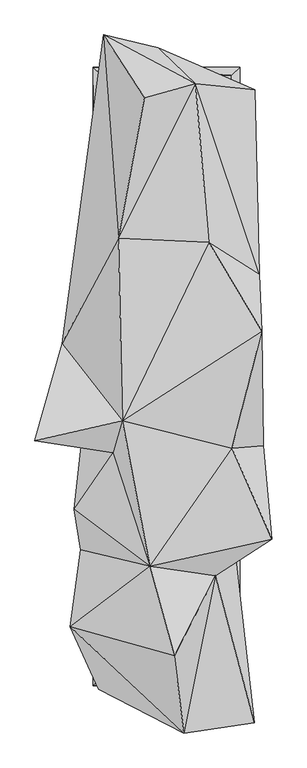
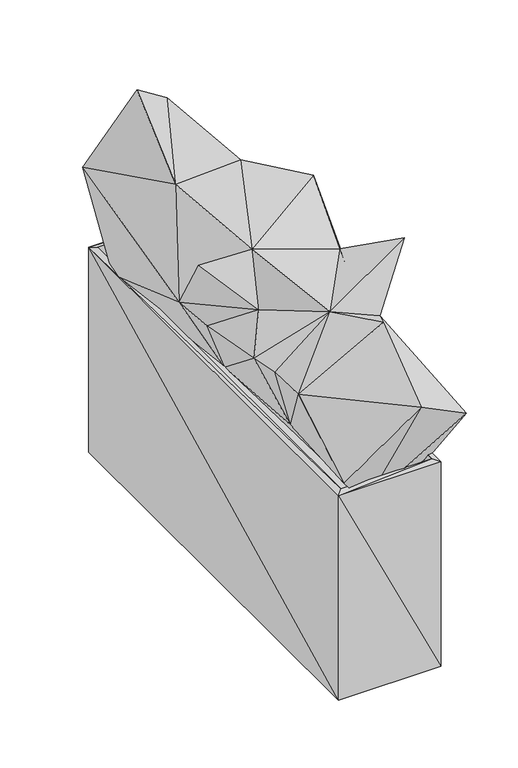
"""IFC4 building model written with IfcOpenShell, lengths in millimetres: geographic element geometry, Enscape AssetDefinition - Snake Plant : Enscape AssetDefinition - Snake Plant."""

import ifcopenshell
import ifcopenshell.guid

model = None  # the IFC model being written
_history = None  # IfcOwnerHistory: only IFC2X3 demands one
_inside = {}  # id of a spatial element -> (the spatial element, [elements in it])
_under = {}  # id of a project, library or spatial element -> (it, [spatial elements below it])
_declared = {}  # id of a project -> (the project, [libraries it declares])
_typed = {}  # id of a type object -> (the type object, [elements of that type])
_made_of = {}  # id of a material, layer set ... -> (it, [elements and type objects made of it])


def new_model(schema):
    """Start an empty IFC model of exactly this schema.

    Asked for "IFC4X3", IfcOpenShell would pick the latest addendum, in which some entities
    have other attributes; the version numbers below select the first issue.
    IFC2X3 requires an IfcOwnerHistory on every rooted entity: one is made here for all.
    """
    global model, _history
    if schema == "IFC4X3":
        model = ifcopenshell.file(schema_version=(4, 3, 0, 0))
    else:
        model = ifcopenshell.file(schema=schema)
    _inside.clear()
    _under.clear()
    _declared.clear()
    _typed.clear()
    _made_of.clear()
    _history = None
    if model.schema == "IFC2X3":
        org = make("IfcOrganization", Name="unknown")
        user = make(
            "IfcPersonAndOrganization",
            ThePerson=make("IfcPerson", FamilyName="unknown"),
            TheOrganization=org,
        )
        app = make(
            "IfcApplication",
            ApplicationDeveloper=org,
            Version="unknown",
            ApplicationFullName="unknown",
            ApplicationIdentifier="unknown",
        )
        _history = make(
            "IfcOwnerHistory",
            OwningUser=user,
            OwningApplication=app,
            ChangeAction="ADDED",
            CreationDate=0,
        )
    return model


def make(cls, **values):
    """One entity of the class cls with the attributes given. An attribute that is None is left unset."""
    return model.create_entity(
        cls, **{name: value for name, value in values.items() if value is not None}
    )


def rooted(cls, **values):
    """An entity with a GlobalId (a new one), such as an element, a storey or a relation."""
    return make(cls, GlobalId=ifcopenshell.guid.new(), OwnerHistory=_history, **values)


def si_unit(unit_type, name, prefix=None):
    """IfcSIUnit, for example si_unit("LENGTHUNIT", "METRE", prefix="MILLI")."""
    return make("IfcSIUnit", UnitType=unit_type, Prefix=prefix, Name=name)


def assignment(units):
    """IfcUnitAssignment: the units of a project."""
    return None if units is None else make("IfcUnitAssignment", Units=units)


def point(xyz):
    """IfcCartesianPoint."""
    return None if xyz is None else make("IfcCartesianPoint", Coordinates=xyz)


def direction(xyz):
    """IfcDirection."""
    return None if xyz is None else make("IfcDirection", DirectionRatios=xyz)


def frame(location, z_axis=None, x_axis=None):
    """IfcAxis2Placement3D, a coordinate frame: its origin and axes. An axis left out is left unset."""
    return make(
        "IfcAxis2Placement3D",
        Location=point(location),
        Axis=direction(z_axis),
        RefDirection=direction(x_axis),
    )


def origin():
    """The frame at (0, 0, 0) with its axes left unset."""
    return frame((0.0, 0.0, 0.0))


def place(relative_to, where):
    """IfcLocalPlacement: puts the frame where relative to a parent placement (None: the world)."""
    return make(
        "IfcLocalPlacement", PlacementRelTo=relative_to, RelativePlacement=where
    )


def context(
    kind, dimensions, precision=None, world=None, true_north=None, identifier=None
):
    """IfcGeometricRepresentationContext, for example the 3D "Model" context."""
    return make(
        "IfcGeometricRepresentationContext",
        ContextIdentifier=identifier,
        ContextType=kind,
        CoordinateSpaceDimension=dimensions,
        Precision=precision,
        WorldCoordinateSystem=world,
        TrueNorth=true_north,
    )


def project(units=None, contexts=None):
    """IfcProject with its units and contexts."""
    return rooted(
        "IfcProject",
        Name="project",
        RepresentationContexts=contexts,
        UnitsInContext=assignment(units),
    )


def spatial(cls, under=None, at=None, **own):
    """A site, building, storey or space (cls), placed at a placement, below another one or the project."""
    s = rooted(cls, ObjectPlacement=at, **own)
    if under is not None:
        _under.setdefault(under.id(), (under, []))[1].append(s)
    return s


def faces_of(points, faces, orient=None, outer=None):
    """IfcFace entities. A face is a list of loops; a loop is a list of indices into points, from 0.

    orient and outer hold one flag for each loop. By default every Orientation is true, the
    first loop of a face is its IfcFaceOuterBound and the others are IfcFaceBound.
    """
    made = []
    for i, loops in enumerate(faces):
        bounds = []
        for j, loop in enumerate(loops):
            is_outer = j == 0 if outer is None else outer[i][j]
            bounds.append(
                make(
                    "IfcFaceOuterBound" if is_outer else "IfcFaceBound",
                    Bound=make("IfcPolyLoop", Polygon=[points[k] for k in loop]),
                    Orientation=True if orient is None else orient[i][j],
                )
            )
        made.append(make("IfcFace", Bounds=bounds))
    return made


def faceted_brep(points, faces, orient=None, outer=None, voids=None):
    """IfcFacetedBrep: a solid bounded by flat faces; with voids (closed shells), ...WithVoids."""
    shared = [point(p) for p in points]
    hull = make("IfcClosedShell", CfsFaces=faces_of(shared, faces, orient, outer))
    if voids is None:
        return make("IfcFacetedBrep", Outer=hull)
    return make(
        "IfcFacetedBrepWithVoids",
        Outer=hull,
        Voids=[
            make(cls, CfsFaces=faces_of(shared, fs, o, b)) for cls, fs, o, b in voids
        ],
    )


def shape(context_of_items, identifier, shape_type, items):
    """IfcShapeRepresentation: the items that make up one representation, for example the "Body"."""
    return make(
        "IfcShapeRepresentation",
        ContextOfItems=context_of_items,
        RepresentationIdentifier=identifier,
        RepresentationType=shape_type,
        Items=items,
    )


def source(mapping_origin, context_of_items, identifier, shape_type, items):
    """IfcRepresentationMap: a shape defined once, which mapped items show again and again."""
    return make(
        "IfcRepresentationMap",
        MappingOrigin=mapping_origin,
        MappedRepresentation=shape(context_of_items, identifier, shape_type, items),
    )


def transform(
    local_origin,
    x_axis=None,
    y_axis=None,
    z_axis=None,
    scale=None,
    scale2=None,
    scale3=None,
    uniform=True,
):
    """IfcCartesianTransformationOperator3D, or its non-uniform kind. x_axis, y_axis, z_axis: its Axis1, 2, 3."""
    if uniform:
        return make(
            "IfcCartesianTransformationOperator3D",
            Axis1=direction(x_axis),
            Axis2=direction(y_axis),
            LocalOrigin=point(local_origin),
            Scale=scale,
            Axis3=direction(z_axis),
        )
    return make(
        "IfcCartesianTransformationOperator3DnonUniform",
        Axis1=direction(x_axis),
        Axis2=direction(y_axis),
        LocalOrigin=point(local_origin),
        Scale=scale,
        Axis3=direction(z_axis),
        Scale2=scale2,
        Scale3=scale3,
    )


def mapped(mapping_source, mapping_target):
    """IfcMappedItem: shows the shape of a source again, moved by a transform."""
    return make(
        "IfcMappedItem", MappingSource=mapping_source, MappingTarget=mapping_target
    )


def made_of(thing, what):
    """Note that an element or type object is made of a material, layer set ...; save() writes the relation."""
    if what is not None:
        _made_of.setdefault(what.id(), (what, []))[1].append(thing)
    return thing


def element(
    cls,
    number,
    at=None,
    inside=None,
    cuts=None,
    type_object=None,
    material=None,
    context=None,
    identifier="Body",
    shape_type=None,
    held_by="IfcProductDefinitionShape",
    body=None,
    shapes=None,
    **own,
):
    """One element of the class cls, such as IfcWall. Its Tag is "e" and its number.

    at: its placement. inside: the storey or other place that contains it. cuts: it is an
    opening in that element (IfcRelVoidsElement). A single representation is given by context,
    identifier, shape_type and body (its items); several are given by shapes. held_by: the class
    of the entity that holds the representations. save() writes the other relations.
    """
    e = rooted(cls, Tag="e%d" % number, ObjectPlacement=at, **own)
    if body is not None:
        shapes = [shape(context, identifier, shape_type, body)]
    if shapes is not None:
        e.Representation = make(held_by, Representations=shapes)
    if inside is not None:
        _inside.setdefault(inside.id(), (inside, []))[1].append(e)
    if cuts is not None:
        rooted(
            "IfcRelVoidsElement", RelatingBuildingElement=cuts, RelatedOpeningElement=e
        )
    if type_object is not None:
        _typed.setdefault(type_object.id(), (type_object, []))[1].append(e)
    return made_of(e, material)


def aggregate(whole, parts):
    """IfcRelAggregates: a whole, such as a stair, and the parts it consists of."""
    return rooted("IfcRelAggregates", RelatingObject=whole, RelatedObjects=parts)


def save(model, path):
    """Write the relations noted so far, then the file.

    IfcRelAggregates (storeys below a building ...), IfcRelContainedInSpatialStructure (elements
    in a storey), IfcRelDefinesByType, IfcRelAssociatesMaterial and IfcRelDeclares: one each for
    every whole, place, type object, material and project.
    """
    for whole, parts in _under.values():
        aggregate(whole, parts)
    for where, things in _inside.values():
        rooted(
            "IfcRelContainedInSpatialStructure",
            RelatedElements=things,
            RelatingStructure=where,
        )
    for kind, things in _typed.values():
        rooted("IfcRelDefinesByType", RelatedObjects=things, RelatingType=kind)
    for what, things in _made_of.values():
        rooted("IfcRelAssociatesMaterial", RelatedObjects=things, RelatingMaterial=what)
    for by, libraries in _declared.values():
        rooted("IfcRelDeclares", RelatingContext=by, RelatedDefinitions=libraries)
    model.write(path)


def geographic_element_d340176e(model_context):
    return source(origin(), model_context, "Body", "Brep", [
        faceted_brep([(157.7689946, -730.0159931, 755.8050156), (157.7689946, 730.0159931, 755.8050156), (157.7689946, -730.0159931, 689.3029809), (177.7530015, 750.0, 750.0), (-177.7530015, 750.0, 750.0), (-157.7689946, 730.0159931, 755.8050156), (-157.7689946, 730.0159931, 689.3029809), (157.7689946, 730.0159931, 689.3029809), (-157.7689946, -730.0159931, 689.3029809), (-157.7689946, -730.0159931, 755.8050156), (-177.7530015, -750.0, 750.0), (-177.7530015, -750.0, 0.0), (177.7530015, -750.0, 0.0), (177.7530015, -750.0, 750.0), (177.7530015, 750.0, 0.0), (-177.7530015, 750.0, 0.0)], [[[0, 1, 2]], [[3, 4, 1]], [[1, 0, 3]], [[5, 6, 1]], [[2, 1, 7]], [[1, 4, 5]], [[1, 6, 7]], [[7, 6, 2]], [[5, 8, 6]], [[2, 6, 8]], [[2, 8, 0]], [[9, 8, 5]], [[0, 8, 9]], [[5, 4, 9]], [[9, 10, 0]], [[9, 4, 10]], [[11, 12, 10]], [[10, 12, 13]], [[0, 10, 13]], [[4, 11, 10]], [[14, 3, 12]], [[14, 12, 15]], [[12, 3, 13]], [[15, 12, 11]], [[15, 11, 4]], [[14, 15, 3]], [[3, 15, 4]], [[3, 0, 13]]]),
        faceted_brep([(-233.9439988, -607.475996, 1053.8829565), (42.578999, -864.997983, 1067.0449734), (18.739, -678.2029867, 1272.8019953), (-34.4009995, -664.2959714, 621.8690276), (-164.4899994, -758.261025, 795.1530218), (118.9519987, -484.239012, 1143.5329914), (213.7819976, -840.4110074, 969.9289799), (-40.0360003, -461.1150026, 1200.3129721), (-171.4230031, -450.5569935, 825.2159953), (-208.3179951, -419.9849963, 1012.4160051), (-89.1740024, 87.0279968, 681.738019), (-224.0249962, -321.8309879, 1009.335041), (-129.5379996, -185.7469976, 1072.5450516), (-185.236007, 27.7759992, 902.6489854), (-319.7759986, -156.1439931, 1283.602953), (-107.1520001, -107.7670008, 1238.2509708), (-252.9540062, 78.7009969, 981.8490148), (-170.3680009, 618.0509925, 729.5650244), (-153.2379985, 827.7930021, 987.2949719), (-116.460003, 334.7850144, 1211.616993), (-21.1219992, 796.9700098, 811.8320107), (4.0870002, 603.760004, 572.224021), (-53.5550006, 675.5980253, 1329.0280104), (70.6629977, 709.0169787, 1235.0120544), (102.4340019, 325.3630102, 1230.9720516), (225.1829952, 247.7750033, 1012.904048), (214.7330046, 694.8459744, 1020.3319788), (164.0979946, 681.0680032, 756.9289804), (96.5119973, 88.1699994, 676.9109964), (235.232994, -168.8600034, 954.4230103), (231.1500013, 109.6180007, 1259.5670223), (159.3050063, -175.0459969, 1187.8670454), (255.5899918, -394.8099911, 1327.6360035), (166.1790013, -422.5830138, 905.8250189), (175.5950004, -688.0869865, 735.935986)], [[[0, 1, 2]], [[3, 1, 4]], [[1, 5, 2]], [[6, 5, 1]], [[1, 3, 6]], [[4, 1, 0]], [[2, 5, 7]], [[0, 2, 7]], [[0, 8, 4]], [[8, 0, 9]], [[9, 0, 7]], [[4, 8, 3]], [[10, 8, 11]], [[8, 9, 11]], [[10, 3, 8]], [[11, 9, 7]], [[12, 11, 7]], [[10, 11, 13]], [[13, 11, 12]], [[14, 12, 15]], [[12, 7, 15]], [[12, 14, 16]], [[12, 16, 13]], [[13, 16, 10]], [[17, 10, 16]], [[14, 15, 16]], [[18, 16, 19]], [[19, 16, 15]], [[18, 17, 16]], [[17, 18, 20]], [[17, 20, 21]], [[10, 17, 21]], [[18, 22, 23]], [[20, 18, 23]], [[22, 18, 19]], [[23, 19, 24]], [[19, 15, 24]], [[22, 19, 23]], [[23, 25, 26]], [[23, 26, 20]], [[23, 24, 25]], [[20, 27, 21]], [[20, 26, 27]], [[21, 28, 10]], [[27, 28, 21]], [[27, 25, 28]], [[26, 25, 27]], [[28, 25, 29]], [[29, 25, 30]], [[30, 25, 24]], [[24, 15, 30]], [[30, 15, 31]], [[29, 30, 31]], [[29, 31, 32]], [[33, 29, 5]], [[33, 28, 29]], [[5, 29, 32]], [[7, 32, 31]], [[31, 15, 7]], [[7, 5, 32]], [[33, 5, 6]], [[34, 28, 33]], [[33, 6, 34]], [[6, 3, 34]], [[28, 34, 3]], [[28, 3, 10]]]),
    ])


if __name__ == "__main__":
    model = new_model("IFC4")
    model_context = context("Model", 3, world=origin())
    ifc_project = project(units=[si_unit("LENGTHUNIT", "METRE", prefix="MILLI")], contexts=[model_context])
    site = spatial("IfcSite", under=ifc_project)
    building = spatial("IfcBuilding", under=site)
    placement = place(None, origin())
    geographic_element_shape = geographic_element_d340176e(model_context)
    element("IfcGeographicElement", 1, ObjectType="Enscape AssetDefinition - Snake Plant : Enscape AssetDefinition - Snake Plant", at=placement, inside=building, context=model_context, shape_type="MappedRepresentation", body=[
        mapped(geographic_element_shape, transform((0.0, 0.0, 0.0), x_axis=(1.0, 0.0, 0.0), y_axis=(0.0, 1.0, 0.0), z_axis=(0.0, 0.0, 1.0))),
    ])
    save(model, "model.ifc")
